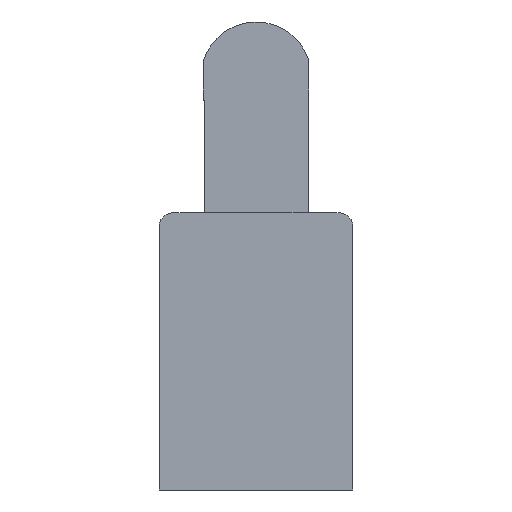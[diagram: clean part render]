
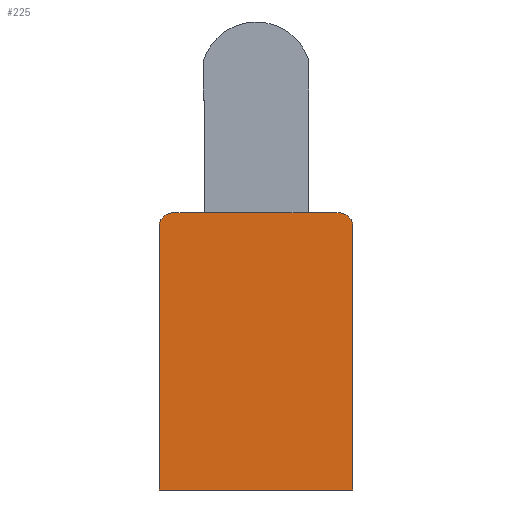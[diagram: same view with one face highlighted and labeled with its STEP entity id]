
A CAD part, left-side view. The second image highlights one B-rep face of the part: STEP entity #225.
In plain terms, the highlighted planar face has unit normal (-1, 0, 0).
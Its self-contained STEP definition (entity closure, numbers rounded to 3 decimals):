
#13 = CARTESIAN_POINT ( 'NONE',  ( -200., 14., -40. ) ) ;
#15 = DIRECTION ( 'NONE',  ( -1., 0., 0. ) ) ;
#18 = EDGE_CURVE ( 'NONE', #102, #283, #22, .T. ) ;
#20 = CARTESIAN_POINT ( 'NONE',  ( -200., 12., 0. ) ) ;
#21 = LINE ( 'NONE', #67, #93 ) ;
#22 = CIRCLE ( 'NONE', #409, 2. ) ;
#27 = VERTEX_POINT ( 'NONE', #13 ) ;
#28 = ORIENTED_EDGE ( 'NONE', *, *, #318, .T. ) ;
#37 = PLANE ( 'NONE',  #185 ) ;
#38 = VERTEX_POINT ( 'NONE', #658 ) ;
#42 = CARTESIAN_POINT ( 'NONE',  ( -200., -13.956, -2. ) ) ;
#43 = ORIENTED_EDGE ( 'NONE', *, *, #244, .T. ) ;
#51 = FACE_OUTER_BOUND ( 'NONE', #92, .T. ) ;
#58 = LINE ( 'NONE', #293, #354 ) ;
#67 = CARTESIAN_POINT ( 'NONE',  ( -200., -13.956, -40. ) ) ;
#74 = DIRECTION ( 'NONE',  ( 0., 0., 1. ) ) ;
#79 = ORIENTED_EDGE ( 'NONE', *, *, #299, .T. ) ;
#89 = DIRECTION ( 'NONE',  ( 0., 0., 1. ) ) ;
#90 = VECTOR ( 'NONE', #512, 1000. ) ;
#92 = EDGE_LOOP ( 'NONE', ( #28, #388, #43, #403, #79, #304, #439, #491 ) ) ;
#93 = VECTOR ( 'NONE', #74, 1000. ) ;
#102 = VERTEX_POINT ( 'NONE', #20 ) ;
#126 = DIRECTION ( 'NONE',  ( 0., 1., 0. ) ) ;
#129 = DIRECTION ( 'NONE',  ( 0., 0., 1. ) ) ;
#149 = CARTESIAN_POINT ( 'NONE',  ( -200., 7.5, 0. ) ) ;
#152 = DIRECTION ( 'NONE',  ( -1., 0., 0. ) ) ;
#178 = VECTOR ( 'NONE', #330, 1000. ) ;
#185 = AXIS2_PLACEMENT_3D ( 'NONE', #370, #415, #89 ) ;
#205 = VERTEX_POINT ( 'NONE', #149 ) ;
#212 = EDGE_CURVE ( 'NONE', #205, #102, #596, .T. ) ;
#216 = VECTOR ( 'NONE', #676, 1000. ) ;
#222 = AXIS2_PLACEMENT_3D ( 'NONE', #470, #152, #517 ) ;
#225 = ADVANCED_FACE ( 'NONE', ( #51 ), #37, .T. ) ;
#236 = CARTESIAN_POINT ( 'NONE',  ( -200., 14., -40. ) ) ;
#244 = EDGE_CURVE ( 'NONE', #253, #585, #526, .T. ) ;
#253 = VERTEX_POINT ( 'NONE', #42 ) ;
#283 = VERTEX_POINT ( 'NONE', #520 ) ;
#293 = CARTESIAN_POINT ( 'NONE',  ( -200., 14., -40. ) ) ;
#299 = EDGE_CURVE ( 'NONE', #38, #205, #543, .T. ) ;
#304 = ORIENTED_EDGE ( 'NONE', *, *, #212, .T. ) ;
#318 = EDGE_CURVE ( 'NONE', #27, #405, #58, .T. ) ;
#330 = DIRECTION ( 'NONE',  ( 0., 0., -1. ) ) ;
#354 = VECTOR ( 'NONE', #406, 1000. ) ;
#370 = CARTESIAN_POINT ( 'NONE',  ( -200., -11.956, -2. ) ) ;
#388 = ORIENTED_EDGE ( 'NONE', *, *, #615, .T. ) ;
#389 = CARTESIAN_POINT ( 'NONE',  ( -200., -13.956, -40. ) ) ;
#403 = ORIENTED_EDGE ( 'NONE', *, *, #459, .T. ) ;
#405 = VERTEX_POINT ( 'NONE', #389 ) ;
#406 = DIRECTION ( 'NONE',  ( 0., -1., 0. ) ) ;
#409 = AXIS2_PLACEMENT_3D ( 'NONE', #660, #15, #129 ) ;
#415 = DIRECTION ( 'NONE',  ( -1., 0., 0. ) ) ;
#439 = ORIENTED_EDGE ( 'NONE', *, *, #18, .T. ) ;
#446 = CARTESIAN_POINT ( 'NONE',  ( -200., 12., 0. ) ) ;
#459 = EDGE_CURVE ( 'NONE', #585, #38, #482, .T. ) ;
#470 = CARTESIAN_POINT ( 'NONE',  ( -200., -11.956, -2. ) ) ;
#482 = LINE ( 'NONE', #446, #90 ) ;
#491 = ORIENTED_EDGE ( 'NONE', *, *, #646, .T. ) ;
#512 = DIRECTION ( 'NONE',  ( 0., 1., 0. ) ) ;
#517 = DIRECTION ( 'NONE',  ( 0., 0., 1. ) ) ;
#520 = CARTESIAN_POINT ( 'NONE',  ( -200., 14., -2. ) ) ;
#526 = CIRCLE ( 'NONE', #222, 2. ) ;
#543 = LINE ( 'NONE', #702, #605 ) ;
#574 = CARTESIAN_POINT ( 'NONE',  ( -200., 12., 0. ) ) ;
#585 = VERTEX_POINT ( 'NONE', #671 ) ;
#591 = LINE ( 'NONE', #236, #178 ) ;
#596 = LINE ( 'NONE', #574, #216 ) ;
#605 = VECTOR ( 'NONE', #126, 1000. ) ;
#615 = EDGE_CURVE ( 'NONE', #405, #253, #21, .T. ) ;
#646 = EDGE_CURVE ( 'NONE', #283, #27, #591, .T. ) ;
#658 = CARTESIAN_POINT ( 'NONE',  ( -200., -7.5, 0. ) ) ;
#660 = CARTESIAN_POINT ( 'NONE',  ( -200., 12., -2. ) ) ;
#671 = CARTESIAN_POINT ( 'NONE',  ( -200., -11.956, 0. ) ) ;
#676 = DIRECTION ( 'NONE',  ( 0., 1., 0. ) ) ;
#702 = CARTESIAN_POINT ( 'NONE',  ( -200., 12., 0. ) ) ;
